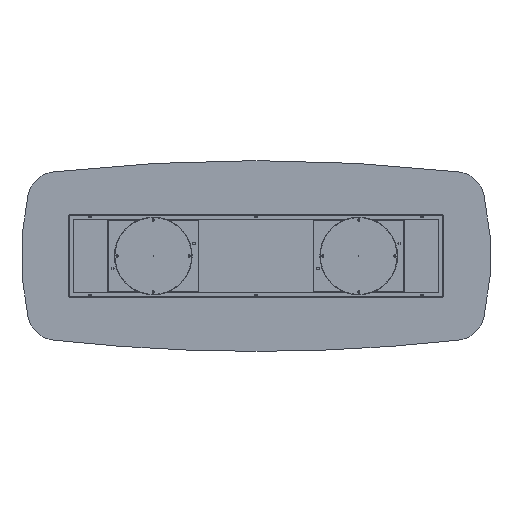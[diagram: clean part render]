
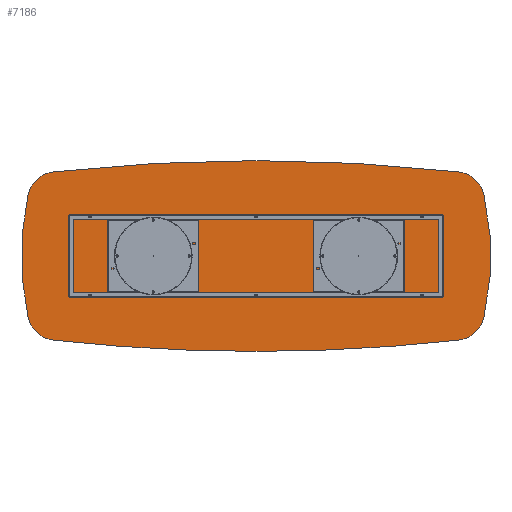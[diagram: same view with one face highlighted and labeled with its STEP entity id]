
A CAD part, front view. The second image highlights one B-rep face of the part: STEP entity #7186.
In plain terms, the highlighted planar face has unit normal (0, -1, 0).
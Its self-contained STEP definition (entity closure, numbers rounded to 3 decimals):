
#85 = DIRECTION ( 'NONE',  ( 0., 0., 1. ) ) ;
#104 = CIRCLE ( 'NONE', #11372, 200. ) ;
#282 = CIRCLE ( 'NONE', #10004, 12500. ) ;
#330 = EDGE_CURVE ( 'NONE', #5424, #2910, #104, .T. ) ;
#487 = DIRECTION ( 'NONE',  ( 0., -1., 0. ) ) ;
#530 = DIRECTION ( 'NONE',  ( 0., 1., 0. ) ) ;
#810 = DIRECTION ( 'NONE',  ( 0., 0., 1. ) ) ;
#872 = DIRECTION ( 'NONE',  ( 0., 0., 1. ) ) ;
#1087 = VERTEX_POINT ( 'NONE', #3724 ) ;
#1288 = DIRECTION ( 'NONE',  ( 0., 0., 1. ) ) ;
#1765 = DIRECTION ( 'NONE',  ( 0., 1., 0. ) ) ;
#2165 = CARTESIAN_POINT ( 'NONE',  ( -1358.173, 0., 374.785 ) ) ;
#2836 = CARTESIAN_POINT ( 'NONE',  ( 1380.257, 0., -573.562 ) ) ;
#2854 = ORIENTED_EDGE ( 'NONE', *, *, #330, .T. ) ;
#2910 = VERTEX_POINT ( 'NONE', #12651 ) ;
#3156 = DIRECTION ( 'NONE',  ( 0., 1., 0. ) ) ;
#3333 = DIRECTION ( 'NONE',  ( 0., 1., 0. ) ) ;
#3687 = EDGE_CURVE ( 'NONE', #5424, #3736, #9002, .T. ) ;
#3705 = ORIENTED_EDGE ( 'NONE', *, *, #3687, .F. ) ;
#3724 = CARTESIAN_POINT ( 'NONE',  ( 1380.257, 0., 573.562 ) ) ;
#3736 = VERTEX_POINT ( 'NONE', #5343 ) ;
#3908 = AXIS2_PLACEMENT_3D ( 'NONE', #13010, #487, #12948 ) ;
#3973 = CARTESIAN_POINT ( 'NONE',  ( 0., 0., -11850. ) ) ;
#4054 = CARTESIAN_POINT ( 'NONE',  ( 1358.173, 0., 374.785 ) ) ;
#4364 = CARTESIAN_POINT ( 'NONE',  ( -150., 0., 5925. ) ) ;
#4384 = ORIENTED_EDGE ( 'NONE', *, *, #11170, .F. ) ;
#4655 = CARTESIAN_POINT ( 'NONE',  ( 0., 0., -650. ) ) ;
#4759 = CARTESIAN_POINT ( 'NONE',  ( -300., 0., 0. ) ) ;
#5073 = DIRECTION ( 'NONE',  ( 0., 1., 0. ) ) ;
#5136 = CIRCLE ( 'NONE', #12862, 12500. ) ;
#5233 = CARTESIAN_POINT ( 'NONE',  ( 0., 0., 11850. ) ) ;
#5297 = ORIENTED_EDGE ( 'NONE', *, *, #8707, .F. ) ;
#5343 = CARTESIAN_POINT ( 'NONE',  ( -1553.252, 0., 418.877 ) ) ;
#5380 = CIRCLE ( 'NONE', #8474, 12500. ) ;
#5424 = VERTEX_POINT ( 'NONE', #10480 ) ;
#5596 = CARTESIAN_POINT ( 'NONE',  ( 1553.252, 0., -418.877 ) ) ;
#5661 = EDGE_CURVE ( 'NONE', #6119, #10022, #8100, .T. ) ;
#5865 = CARTESIAN_POINT ( 'NONE',  ( -1380.257, 0., 573.562 ) ) ;
#6113 = CARTESIAN_POINT ( 'NONE',  ( 0., 0., 11850. ) ) ;
#6119 = VERTEX_POINT ( 'NONE', #2836 ) ;
#6155 = FACE_OUTER_BOUND ( 'NONE', #8034, .T. ) ;
#6217 = DIRECTION ( 'NONE',  ( 0., 0., 1. ) ) ;
#6886 = DIRECTION ( 'NONE',  ( 0., 0., 1. ) ) ;
#6916 = AXIS2_PLACEMENT_3D ( 'NONE', #2165, #9431, #8732 ) ;
#7170 = AXIS2_PLACEMENT_3D ( 'NONE', #4364, #7465, #6217 ) ;
#7186 = ADVANCED_FACE ( 'NONE', ( #6155 ), #11623, .F. ) ;
#7413 = AXIS2_PLACEMENT_3D ( 'NONE', #4759, #530, #6886 ) ;
#7465 = DIRECTION ( 'NONE',  ( 0., 1., 0. ) ) ;
#7669 = AXIS2_PLACEMENT_3D ( 'NONE', #8389, #3333, #85 ) ;
#7993 = EDGE_CURVE ( 'NONE', #11482, #10022, #11619, .T. ) ;
#8034 = EDGE_LOOP ( 'NONE', ( #4384, #8507, #3705, #2854, #10984, #5297, #9738, #12946, #12817 ) ) ;
#8100 = CIRCLE ( 'NONE', #3908, 200. ) ;
#8277 = DIRECTION ( 'NONE',  ( 0., -1., 0. ) ) ;
#8320 = DIRECTION ( 'NONE',  ( 0., 0., 1. ) ) ;
#8355 = VERTEX_POINT ( 'NONE', #4655 ) ;
#8389 = CARTESIAN_POINT ( 'NONE',  ( 300., 0., 0. ) ) ;
#8474 = AXIS2_PLACEMENT_3D ( 'NONE', #5233, #3156, #1288 ) ;
#8507 = ORIENTED_EDGE ( 'NONE', *, *, #11801, .T. ) ;
#8707 = EDGE_CURVE ( 'NONE', #6119, #8355, #5136, .T. ) ;
#8732 = DIRECTION ( 'NONE',  ( 0., 0., 1. ) ) ;
#9002 = CIRCLE ( 'NONE', #7669, 1900. ) ;
#9288 = DIRECTION ( 'NONE',  ( 0., 0., 1. ) ) ;
#9431 = DIRECTION ( 'NONE',  ( 0., -1., 0. ) ) ;
#9738 = ORIENTED_EDGE ( 'NONE', *, *, #5661, .T. ) ;
#9802 = CIRCLE ( 'NONE', #6916, 200. ) ;
#10004 = AXIS2_PLACEMENT_3D ( 'NONE', #3973, #1765, #872 ) ;
#10022 = VERTEX_POINT ( 'NONE', #5596 ) ;
#10480 = CARTESIAN_POINT ( 'NONE',  ( -1553.252, 0., -418.877 ) ) ;
#10984 = ORIENTED_EDGE ( 'NONE', *, *, #11282, .F. ) ;
#11079 = VERTEX_POINT ( 'NONE', #5865 ) ;
#11170 = EDGE_CURVE ( 'NONE', #11079, #1087, #282, .T. ) ;
#11282 = EDGE_CURVE ( 'NONE', #8355, #2910, #5380, .T. ) ;
#11372 = AXIS2_PLACEMENT_3D ( 'NONE', #12734, #13379, #8320 ) ;
#11482 = VERTEX_POINT ( 'NONE', #12067 ) ;
#11619 = CIRCLE ( 'NONE', #7413, 1900. ) ;
#11623 = PLANE ( 'NONE',  #7170 ) ;
#11801 = EDGE_CURVE ( 'NONE', #11079, #3736, #9802, .T. ) ;
#12067 = CARTESIAN_POINT ( 'NONE',  ( 1553.252, 0., 418.877 ) ) ;
#12212 = CIRCLE ( 'NONE', #12417, 200. ) ;
#12417 = AXIS2_PLACEMENT_3D ( 'NONE', #4054, #8277, #810 ) ;
#12651 = CARTESIAN_POINT ( 'NONE',  ( -1380.257, 0., -573.562 ) ) ;
#12680 = EDGE_CURVE ( 'NONE', #11482, #1087, #12212, .T. ) ;
#12734 = CARTESIAN_POINT ( 'NONE',  ( -1358.173, 0., -374.785 ) ) ;
#12817 = ORIENTED_EDGE ( 'NONE', *, *, #12680, .T. ) ;
#12862 = AXIS2_PLACEMENT_3D ( 'NONE', #6113, #5073, #9288 ) ;
#12946 = ORIENTED_EDGE ( 'NONE', *, *, #7993, .F. ) ;
#12948 = DIRECTION ( 'NONE',  ( 0., 0., 1. ) ) ;
#13010 = CARTESIAN_POINT ( 'NONE',  ( 1358.173, 0., -374.785 ) ) ;
#13379 = DIRECTION ( 'NONE',  ( 0., -1., 0. ) ) ;
